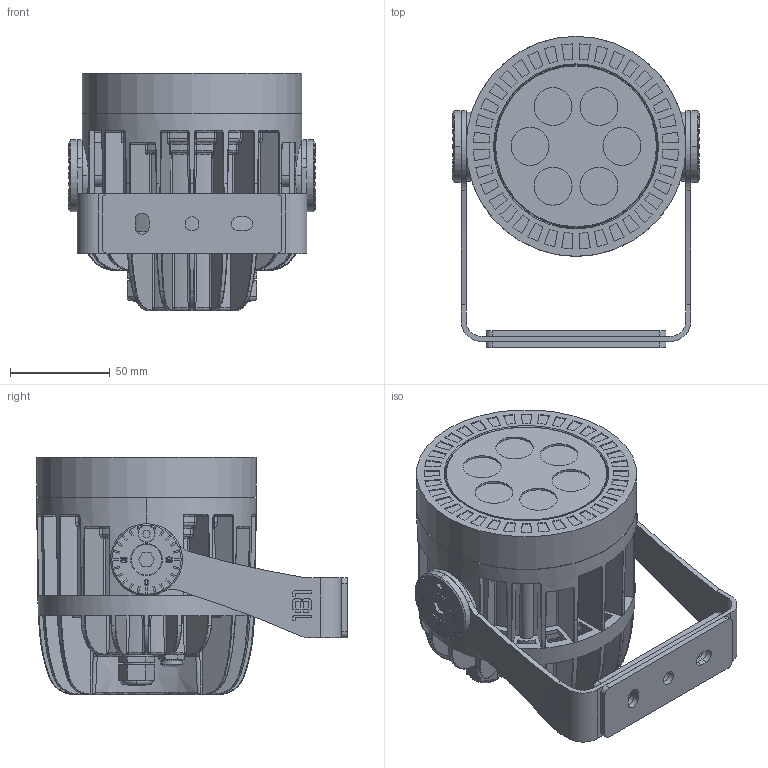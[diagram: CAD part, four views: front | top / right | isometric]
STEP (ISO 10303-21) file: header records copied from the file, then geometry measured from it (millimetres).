
FILE_DESCRIPTION (( 'STEP AP214' ), '1' );
FILE_NAME ('Beam F12.STEP', '2025-08-21T12:54:38', ( '' ), ( '' ), 'SwSTEP 2.0', 'SolidWorks 2025', '' );
FILE_SCHEMA (( 'AUTOMOTIVE_DESIGN' ));
Length unit declared in the file: millimetre
Products named in the file (5): BEAM F12 - BODY; Beam F12 - Bracket; Beam F12 - Bracket protector; Beam F12 - Knobs; Beam F12
Assembly tree (5 placements, depth 2):
  Beam F12
    Beam F12 - Bracket
    BEAM F12 - BODY
    Beam F12 - Knobs
    Beam F12 - Bracket protector  x2
Bounding box: 123.6 x 155.5 x 118.7 mm (x, y, z)
Volume: 780383.8 mm3; surface area: 153709.2 mm2
Topology: 10 solids, 14 shells, 2987 faces, 7611 edges, 4745 vertices
Faces by surface type: plane 1421, cylinder 722, bspline 311, torus 257, sphere 152, cone 124
Full cylindrical faces by diameter (mm): 6 x2, 6.42 x1, 7 x7, 8.3 x4, 10.9 x1, 14 x1, 16 x3, 19 x6, 108 x1, 110 x1
Entity records: 120580 total; most frequent: CARTESIAN_POINT 53001, ORIENTED_EDGE 14942, DIRECTION 12610, EDGE_CURVE 7471, VERTEX_POINT 4693, AXIS2_PLACEMENT_3D 4449, LINE 3712, VECTOR 3712
